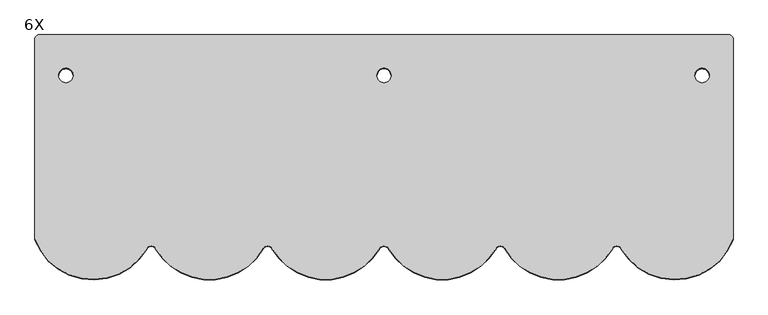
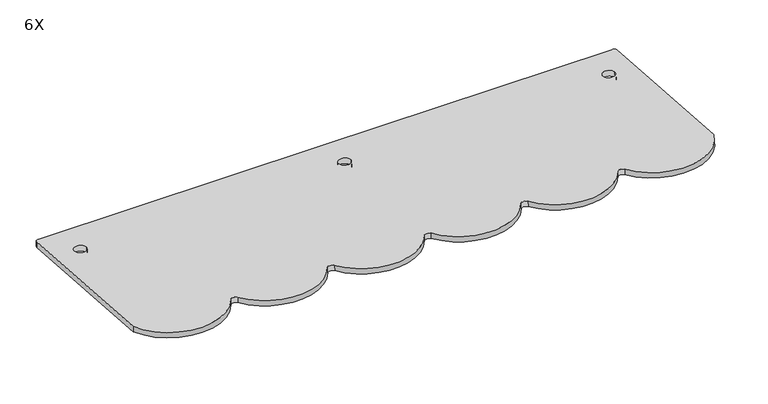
"""IFC4 building model written with IfcOpenShell, lengths in millimetres: proxy geometry, ML PhotonRoof Beaver Brick Premium : 6X."""

from ifc_helpers import new_model, si_unit, point, frame, frame_2d, origin, place, context, project, spatial, polyline, circle_curve, trimmed, segment, composite_curve, outline, extrude, source, transform, mapped, element, save


def proxy_6x_89e27b86(model_context):
    return source(origin(), model_context, "Body", "SweptSolid", [
        extrude(outline(composite_curve([segment(polyline([(180.0, 0.0), (720.0, 0.0)]), True, "CONTINUOUS"), segment(trimmed(circle_curve(frame_2d((720.0, -5.9999999)), 6.0), [point((720.0, 0.0))], [point((726.0, -5.9999999))], False, "CARTESIAN"), True, "CONTINUOUS"), segment(polyline([(726.0, -5.9999999), (726.0, -317.4065861)]), True, "CONTINUOUS"), segment(trimmed(circle_curve(frame_2d((636.0, -284.0)), 96.0), [point((726.0, -317.4065861))], [point((552.5197525, -331.4030407))], False, "CARTESIAN"), True, "CONTINUOUS"), segment(trimmed(circle_curve(frame_2d((546.0, -336.0390765)), 8.0), [point((552.5197525, -331.4030407))], [point((539.4802475, -331.4030407))], True, "CARTESIAN"), True, "CONTINUOUS"), segment(trimmed(circle_curve(frame_2d((456.0, -284.0)), 96.0), [point((539.4802475, -331.4030407))], [point((372.5197525, -331.4030407))], False, "CARTESIAN"), True, "CONTINUOUS"), segment(trimmed(circle_curve(frame_2d((366.0, -336.0390765)), 8.0), [point((372.5197525, -331.4030407))], [point((359.4802475, -331.4030407))], True, "CARTESIAN"), True, "CONTINUOUS"), segment(trimmed(circle_curve(frame_2d((276.0, -284.0)), 96.0), [point((359.4802475, -331.4030407))], [point((192.5197525, -331.4030407))], False, "CARTESIAN"), True, "CONTINUOUS"), segment(trimmed(circle_curve(frame_2d((186.0, -336.0390765)), 8.0), [point((192.5197525, -331.4030407))], [point((179.4802475, -331.4030407))], True, "CARTESIAN"), True, "CONTINUOUS"), segment(trimmed(circle_curve(frame_2d((96.0, -284.0)), 96.0), [point((179.4802475, -331.4030407))], [point((12.5197525, -331.4030407))], False, "CARTESIAN"), True, "CONTINUOUS"), segment(trimmed(circle_curve(frame_2d((6.0, -336.0390765)), 8.0), [point((12.5197525, -331.4030407))], [point((-0.5197525, -331.4030407))], True, "CARTESIAN"), True, "CONTINUOUS"), segment(trimmed(circle_curve(frame_2d((-84.0, -284.0)), 96.0), [point((-0.5197525, -331.4030407))], [point((-167.4802475, -331.4030407))], False, "CARTESIAN"), True, "CONTINUOUS"), segment(trimmed(circle_curve(frame_2d((-174.0, -336.0390765)), 8.0), [point((-167.4802475, -331.4030407))], [point((-180.5197525, -331.4030407))], True, "CARTESIAN"), True, "CONTINUOUS"), segment(trimmed(circle_curve(frame_2d((-264.0, -284.0)), 96.0), [point((-180.5197525, -331.4030407))], [point((-354.0, -317.4065861))], False, "CARTESIAN"), True, "CONTINUOUS"), segment(polyline([(-354.0, -317.4065861), (-354.0, -5.9999999)]), True, "CONTINUOUS"), segment(trimmed(circle_curve(frame_2d((-348.0, -5.9999999)), 6.0), [point((-354.0, -5.9999999))], [point((-348.0, 0.0))], False, "CARTESIAN"), True, "CONTINUOUS"), segment(polyline([(-348.0, 0.0), (180.0, 0.0)]), True, "CONTINUOUS")], self_intersect=False), holes=[composite_curve([segment(trimmed(circle_curve(frame_2d((678.0, -63.0)), 11.0), [point((689.0, -63.0))], [point((667.0, -63.0))], True, "CARTESIAN"), True, "CONTINUOUS"), segment(trimmed(circle_curve(frame_2d((678.0, -63.0)), 11.0), [point((667.0, -63.0))], [point((689.0, -63.0))], True, "CARTESIAN"), True, "CONTINUOUS")], self_intersect=False), composite_curve([segment(trimmed(circle_curve(frame_2d((186.0, -63.0)), 11.0), [point((175.0, -63.0))], [point((197.0, -63.0))], True, "CARTESIAN"), True, "CONTINUOUS"), segment(trimmed(circle_curve(frame_2d((186.0, -63.0)), 11.0), [point((197.0, -63.0))], [point((175.0, -63.0))], True, "CARTESIAN"), True, "CONTINUOUS")], self_intersect=False), composite_curve([segment(trimmed(circle_curve(frame_2d((-306.0, -63.0)), 11.0), [point((-317.0, -63.0))], [point((-295.0, -63.0))], True, "CARTESIAN"), True, "CONTINUOUS"), segment(trimmed(circle_curve(frame_2d((-306.0, -63.0)), 11.0), [point((-295.0, -63.0))], [point((-317.0, -63.0))], True, "CARTESIAN"), True, "CONTINUOUS")], self_intersect=False)]), frame((264.0, 61.8226874, -4.3874165), z_axis=(0.0, 0.0707897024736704, 0.997491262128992), x_axis=(1.0, 0.0, 0.0)), (0.0, 0.0, 1.0), 10.0),
        extrude(outline(polyline([(65.625, 0.0), (65.625, -23.75), (-13.759513, -23.75), (-13.759513, 0.0), (65.625, 0.0)])), frame((424.0672565, 44.8719219, -17.0261079), z_axis=(0.0, 0.0707897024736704, 0.997491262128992), x_axis=(1.0, 0.0, 0.0)), (0.0, 0.0, 1.0), 13.8069239),
    ])


if __name__ == "__main__":
    model = new_model("IFC4")
    model_context = context("Model", 3, world=origin())
    ifc_project = project(units=[si_unit("LENGTHUNIT", "METRE", prefix="MILLI")], contexts=[model_context])
    site = spatial("IfcSite", under=ifc_project)
    building = spatial("IfcBuilding", under=site)
    placement = place(None, origin())
    proxy_6x_shape = proxy_6x_89e27b86(model_context)
    element("IfcBuildingElementProxy", 1, Name="ML PhotonRoof Beaver Brick Premium : 6X", ObjectType="ML PhotonRoof Beaver Brick Premium : 6X", at=placement, inside=building, context=model_context, shape_type="MappedRepresentation", body=[
        mapped(proxy_6x_shape, transform((0.0, 0.0, 0.0), x_axis=(1.0, 0.0, 0.0), y_axis=(0.0, 1.0, 0.0), z_axis=(0.0, 0.0, 1.0))),
    ])
    save(model, "model.ifc")
